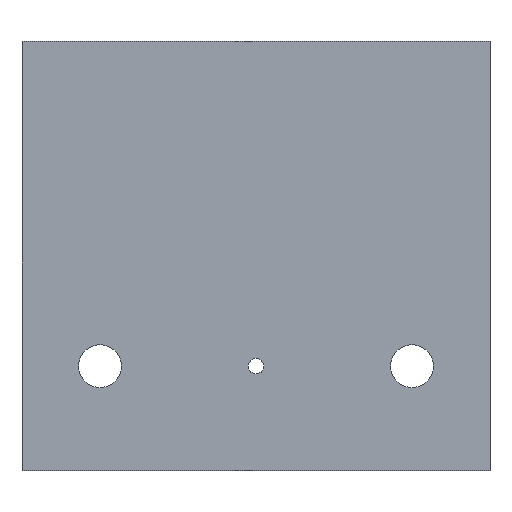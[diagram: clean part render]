
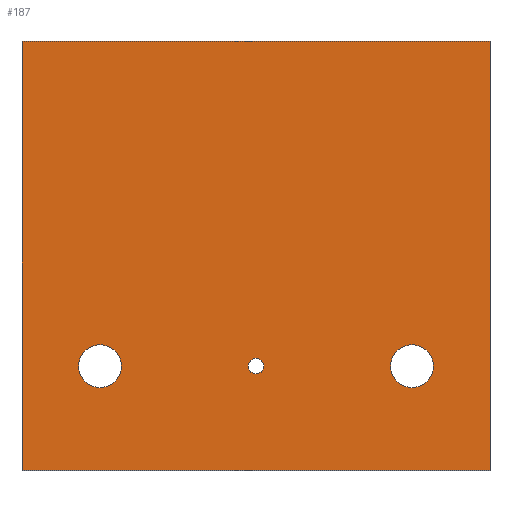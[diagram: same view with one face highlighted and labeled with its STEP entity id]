
A CAD part, top view. The second image highlights one B-rep face of the part: STEP entity #187.
In plain terms, the highlighted planar face has unit normal (0, 0, 1).
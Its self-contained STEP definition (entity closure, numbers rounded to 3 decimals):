
#42 = VERTEX_POINT('',#43);
#43 = CARTESIAN_POINT('',(24.,-22.,0.91));
#49 = EDGE_CURVE('',#42,#50,#52,.T.);
#50 = VERTEX_POINT('',#51);
#51 = CARTESIAN_POINT('',(0.,-22.,0.91));
#52 = LINE('',#53,#54);
#53 = CARTESIAN_POINT('',(24.,-22.,0.91));
#54 = VECTOR('',#55,1.);
#55 = DIRECTION('',(-1.,0.,0.));
#82 = VERTEX_POINT('',#83);
#83 = CARTESIAN_POINT('',(24.,0.,0.91));
#89 = EDGE_CURVE('',#82,#42,#90,.T.);
#90 = LINE('',#91,#92);
#91 = CARTESIAN_POINT('',(24.,0.,0.91));
#92 = VECTOR('',#93,1.);
#93 = DIRECTION('',(0.,-1.,0.));
#111 = EDGE_CURVE('',#50,#112,#114,.T.);
#112 = VERTEX_POINT('',#113);
#113 = CARTESIAN_POINT('',(0.,0.,0.91));
#114 = LINE('',#115,#116);
#115 = CARTESIAN_POINT('',(0.,-22.,0.91));
#116 = VECTOR('',#117,1.);
#117 = DIRECTION('',(0.,1.,0.));
#187 = ADVANCED_FACE('',(#188,#199,#210,#221),#232,.T.);
#188 = FACE_BOUND('',#189,.T.);
#189 = EDGE_LOOP('',(#190,#191,#192,#198));
#190 = ORIENTED_EDGE('',*,*,#49,.F.);
#191 = ORIENTED_EDGE('',*,*,#89,.F.);
#192 = ORIENTED_EDGE('',*,*,#193,.F.);
#193 = EDGE_CURVE('',#112,#82,#194,.T.);
#194 = LINE('',#195,#196);
#195 = CARTESIAN_POINT('',(0.,0.,0.91));
#196 = VECTOR('',#197,1.);
#197 = DIRECTION('',(1.,0.,0.));
#198 = ORIENTED_EDGE('',*,*,#111,.F.);
#199 = FACE_BOUND('',#200,.T.);
#200 = EDGE_LOOP('',(#201));
#201 = ORIENTED_EDGE('',*,*,#202,.T.);
#202 = EDGE_CURVE('',#203,#203,#205,.T.);
#203 = VERTEX_POINT('',#204);
#204 = CARTESIAN_POINT('',(4.,-17.75,0.91));
#205 = CIRCLE('',#206,1.1);
#206 = AXIS2_PLACEMENT_3D('',#207,#208,#209);
#207 = CARTESIAN_POINT('',(4.,-16.65,0.91));
#208 = DIRECTION('',(-0.,0.,-1.));
#209 = DIRECTION('',(-0.,-1.,0.));
#210 = FACE_BOUND('',#211,.T.);
#211 = EDGE_LOOP('',(#212));
#212 = ORIENTED_EDGE('',*,*,#213,.T.);
#213 = EDGE_CURVE('',#214,#214,#216,.T.);
#214 = VERTEX_POINT('',#215);
#215 = CARTESIAN_POINT('',(12.,-17.05,0.91));
#216 = CIRCLE('',#217,0.4);
#217 = AXIS2_PLACEMENT_3D('',#218,#219,#220);
#218 = CARTESIAN_POINT('',(12.,-16.65,0.91));
#219 = DIRECTION('',(-0.,0.,-1.));
#220 = DIRECTION('',(-0.,-1.,0.));
#221 = FACE_BOUND('',#222,.T.);
#222 = EDGE_LOOP('',(#223));
#223 = ORIENTED_EDGE('',*,*,#224,.T.);
#224 = EDGE_CURVE('',#225,#225,#227,.T.);
#225 = VERTEX_POINT('',#226);
#226 = CARTESIAN_POINT('',(20.,-17.75,0.91));
#227 = CIRCLE('',#228,1.1);
#228 = AXIS2_PLACEMENT_3D('',#229,#230,#231);
#229 = CARTESIAN_POINT('',(20.,-16.65,0.91));
#230 = DIRECTION('',(-0.,0.,-1.));
#231 = DIRECTION('',(-0.,-1.,0.));
#232 = PLANE('',#233);
#233 = AXIS2_PLACEMENT_3D('',#234,#235,#236);
#234 = CARTESIAN_POINT('',(0.,0.,0.91));
#235 = DIRECTION('',(0.,0.,1.));
#236 = DIRECTION('',(1.,0.,-0.));
